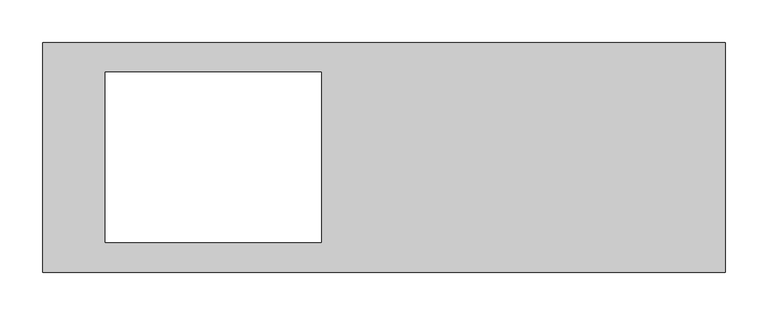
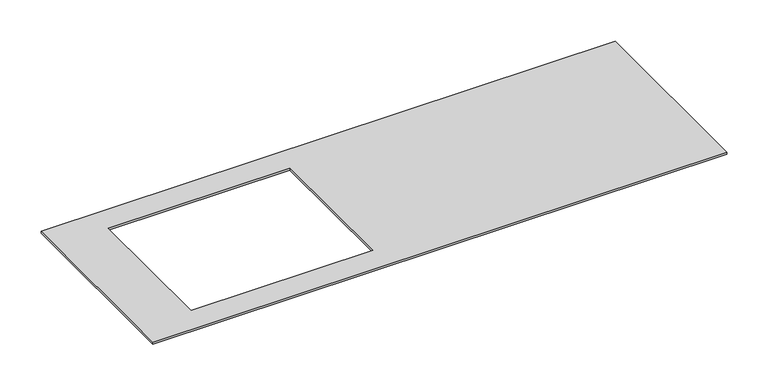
"""IFC4 building model written with IfcOpenShell, lengths in millimetres: proxy geometry, Electrical_Installation_Hager_Cover-E09-BKA : Electrical_Installation_Hager_Cover-E09-BKA."""

from ifc_helpers import new_model, si_unit, frame, origin, place, context, project, spatial, polyline, outline, extrude, source, transform, mapped, element, save


def electrical_fixtures_a8bb30d2(model_context):
    return source(origin(), model_context, "Body", "SweptSolid", [
        extrude(outline(polyline([(800.0, 134.75), (800.0, -134.75), (0.0, -134.75), (0.0, 134.75), (800.0, 134.75)]), holes=[polyline([(326.5, 100.0), (73.5, 100.0), (73.5, -100.0), (326.5, -100.0), (326.5, 100.0)])]), frame((0.0, 0.0, 10.0), z_axis=(0.0, 0.0, 1.0), x_axis=(1.0, 0.0, 0.0)), (0.0, 0.0, 1.0), 3.0),
    ])


if __name__ == "__main__":
    model = new_model("IFC4")
    model_context = context("Model", 3, world=origin())
    ifc_project = project(units=[si_unit("LENGTHUNIT", "METRE", prefix="MILLI")], contexts=[model_context])
    site = spatial("IfcSite", under=ifc_project)
    building = spatial("IfcBuilding", under=site)
    placement = place(None, origin())
    electrical_fixtures_shape = electrical_fixtures_a8bb30d2(model_context)
    element("IfcBuildingElementProxy", 1, Name="Electrical_Installation_Hager_Cover-E09-BKA : Electrical_Installation_Hager_Cover-E09-BKA", ObjectType="Electrical_Installation_Hager_Cover-E09-BKA : Electrical_Installation_Hager_Cover-E09-BKA", at=placement, inside=building, context=model_context, shape_type="MappedRepresentation", body=[
        mapped(electrical_fixtures_shape, transform((0.0, 0.0, 0.0), x_axis=(1.0, 0.0, 0.0), y_axis=(0.0, 1.0, 0.0), z_axis=(0.0, 0.0, 1.0))),
    ])
    save(model, "model.ifc")
